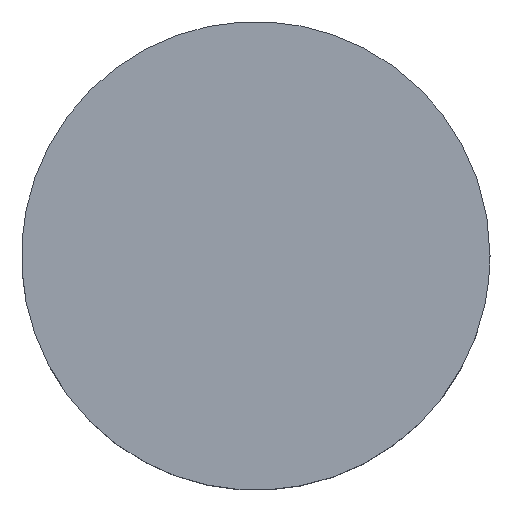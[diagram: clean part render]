
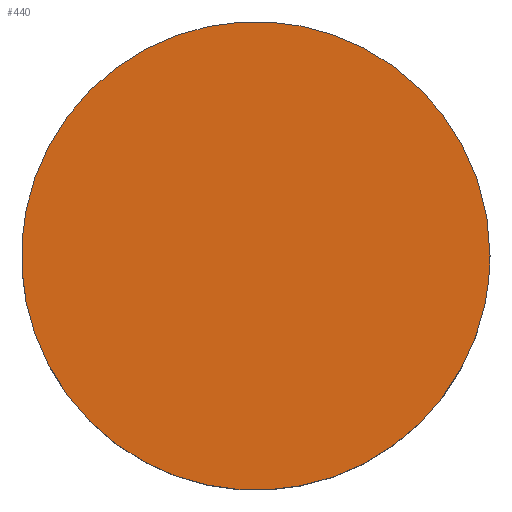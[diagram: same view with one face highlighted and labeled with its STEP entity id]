
A CAD part, top view. The second image highlights one B-rep face of the part: STEP entity #440.
In plain terms, the highlighted planar face has unit normal (0, 0, 1).
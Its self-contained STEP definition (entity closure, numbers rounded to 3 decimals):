
#230 = CARTESIAN_POINT ('', (2., 0., -57.4));
#240 = VERTEX_POINT ('', #230);
#250 = CARTESIAN_POINT ('', (2., 0., -57.4));
#260 = CARTESIAN_POINT ('', (2., 2., -57.4));
#270 = CARTESIAN_POINT ('', (0., 2., -57.4));
#280 = CARTESIAN_POINT ('', (-2., 2., -57.4));
#290 = CARTESIAN_POINT ('', (-2., 0., -57.4));
#300 = CARTESIAN_POINT ('', (-2., -2., -57.4));
#310 = CARTESIAN_POINT ('', (0., -2., -57.4));
#320 = CARTESIAN_POINT ('', (2., -2., -57.4));
#330 = CARTESIAN_POINT ('', (2., 0., -57.4));
#340 = (
   BOUNDED_CURVE ()
   B_SPLINE_CURVE (2, (#250, #260, #270, #280, #290, #300, #310, #320, #330), .UNSPECIFIED., .T., .U.)
   B_SPLINE_CURVE_WITH_KNOTS ((3, 2, 2, 2, 3), (0., 1.571, 3.142, 4.712, 6.283), .UNSPECIFIED.)
   CURVE ()
   GEOMETRIC_REPRESENTATION_ITEM ()
   RATIONAL_B_SPLINE_CURVE ((1., 0.707, 1., 0.707, 1., 0.707, 1., 0.707, 1.))
   REPRESENTATION_ITEM ('')
);
#350 = EDGE_CURVE ('', #240, #240, #340, .T.);
#360 = ORIENTED_EDGE ('', *, *, #350, .T.);
#370 = EDGE_LOOP ('', (#360));
#380 = FACE_OUTER_BOUND ('', #370, .T.);
#390 = CARTESIAN_POINT ('', (0., 4.284, -57.4));
#400 = DIRECTION ('', (0., 0., 1.));
#410 = DIRECTION ('', (-0.707, -0.707, 0.));
#420 = AXIS2_PLACEMENT_3D ('', #390, #400, #410);
#430 = PLANE ('', #420);
#440 = ADVANCED_FACE ('', (#380), #430, .T.);
